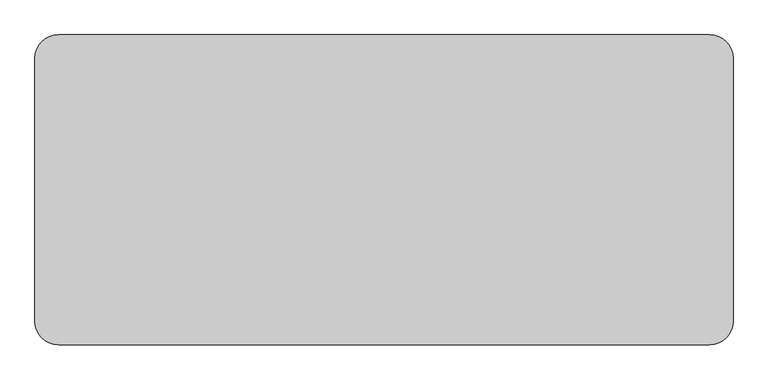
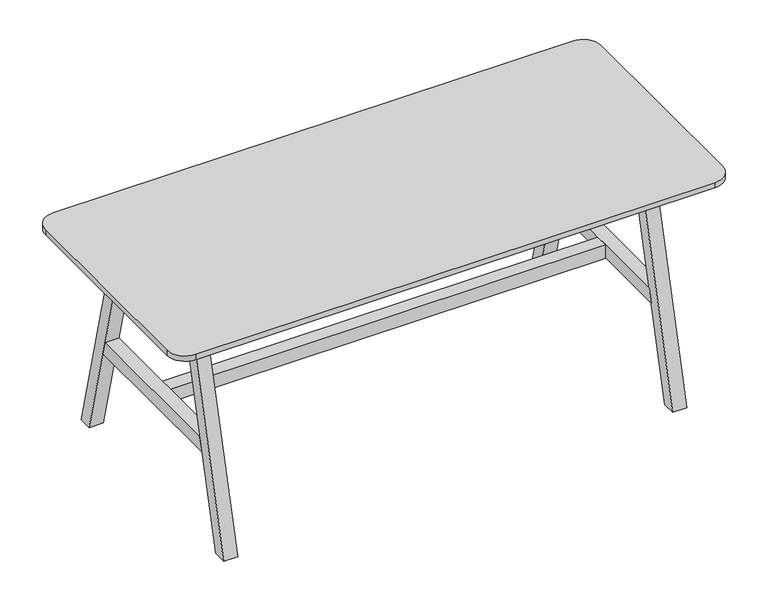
"""IFC4 building model written with IfcOpenShell, lengths in millimetres: furniture geometry, BDG_BossDesign_Tbls_AgentTables4Legs : AGE-DT-1800-800-3D."""

from ifc_helpers import new_model, si_unit, point, frame, frame_2d, origin, place, context, project, spatial, polyline, circle_curve, trimmed, segment, composite_curve, outline, extrude, source, transform, mapped, element, save


def furniture_91abc4a6(model_context):
    return source(origin(), model_context, "Body", "SweptSolid", [
        extrude(outline(polyline([(-266.3977249, 345.0), (266.3977249, 345.0), (277.9545427, 300.0), (-277.9545427, 300.0), (-266.3977249, 345.0)])), frame((705.0, 0.0, 0.0), z_axis=(1.0, 0.0, 0.0), x_axis=(0.0, 1.0, 0.0)), (0.0, 0.0, 1.0), 45.0),
        extrude(outline(polyline([(400.0, 0.0), (354.9999949, 0.0), (185.5, 660.0), (230.5000051, 660.0), (400.0, 0.0)])), frame((-750.0, 0.0, 0.0), z_axis=(1.0, 0.0, 0.0), x_axis=(0.0, 1.0, 0.0)), (0.0, 0.0, 1.0), 45.0),
        extrude(outline(polyline([(-400.0, 0.0), (-230.5000051, 660.0), (-185.5, 660.0), (-354.9999949, 0.0), (-400.0, 0.0)])), frame((-750.0, 0.0, 0.0), z_axis=(1.0, 0.0, 0.0), x_axis=(0.0, 1.0, 0.0)), (0.0, 0.0, 1.0), 45.0),
        extrude(outline(polyline([(-179.5, 722.0), (179.5, 722.0), (197.9691272, 650.0), (-197.9691272, 650.0), (-179.5, 722.0)])), frame((288.0, 0.0, 0.0), z_axis=(1.0, 0.0, 0.0), x_axis=(0.0, 1.0, 0.0)), (0.0, 0.0, 1.0), 24.0),
        extrude(outline(polyline([(-266.3977249, 345.0), (266.3977249, 345.0), (277.9545427, 300.0), (-277.9545427, 300.0), (-266.3977249, 345.0)])), frame((-750.0, 0.0, 0.0), z_axis=(1.0, 0.0, 0.0), x_axis=(0.0, 1.0, 0.0)), (0.0, 0.0, 1.0), 45.0),
        extrude(outline(polyline([(-179.5, 722.0), (179.5, 722.0), (197.9691272, 650.0), (-197.9691272, 650.0), (-179.5, 722.0)])), frame((-312.0, 0.0, 0.0), z_axis=(1.0, 0.0, 0.0), x_axis=(0.0, 1.0, 0.0)), (0.0, 0.0, 1.0), 24.0),
        extrude(outline(polyline([(-226.6006165, 634.973938), (-204.2770691, 722.0), (-179.5, 722.0), (-201.8235474, 634.973938), (-226.6006165, 634.973938)])), frame((-705.0, 0.0, 0.0), z_axis=(1.0, 0.0, 0.0), x_axis=(0.0, 1.0, 0.0)), (0.0, 0.0, 1.0), 1410.0),
        extrude(outline(polyline([(226.6006165, 634.973938), (201.8235474, 634.973938), (179.5, 722.0), (204.2770691, 722.0), (226.6006165, 634.973938)])), frame((-705.0, 0.0, 0.0), z_axis=(1.0, 0.0, 0.0), x_axis=(0.0, 1.0, 0.0)), (0.0, 0.0, 1.0), 1410.0),
        extrude(outline(polyline([(399.7999878, 0.0), (354.7999827, 0.0), (185.5, 660.0), (230.5000051, 660.0), (399.7999878, 0.0)])), frame((705.0, 0.0, 0.0), z_axis=(1.0, 0.0, 0.0), x_axis=(0.0, 1.0, 0.0)), (0.0, 0.0, 1.0), 45.0),
        extrude(outline(polyline([(-399.7999878, 0.0), (-230.5000051, 660.0), (-185.5, 660.0), (-354.7999827, 0.0), (-399.7999878, 0.0)])), frame((705.0, 0.0, 0.0), z_axis=(1.0, 0.0, 0.0), x_axis=(0.0, 1.0, 0.0)), (0.0, 0.0, 1.0), 45.0),
        extrude(outline(polyline([(705.0, 22.5000305), (705.0, -22.5000305), (-705.0, -22.5000305), (-705.0, 22.5000305), (705.0, 22.5000305)])), frame((0.0, 0.0, 300.0), z_axis=(0.0, 0.0, 1.0), x_axis=(1.0, 0.0, 0.0)), (0.0, 0.0, 1.0), 45.0),
        extrude(outline(composite_curve([segment(trimmed(circle_curve(frame_2d((840.0, 340.0)), 60.0), [point((840.0, 400.0))], [point((900.0, 340.0))], False, "CARTESIAN"), True, "CONTINUOUS"), segment(polyline([(900.0, 340.0), (900.0, -340.0)]), True, "CONTINUOUS"), segment(trimmed(circle_curve(frame_2d((840.0, -340.0)), 60.0), [point((900.0, -340.0))], [point((840.0, -400.0))], False, "CARTESIAN"), True, "CONTINUOUS"), segment(polyline([(840.0, -400.0), (-840.0, -400.0)]), True, "CONTINUOUS"), segment(trimmed(circle_curve(frame_2d((-840.0, -340.0)), 60.0), [point((-840.0, -400.0))], [point((-900.0, -340.0))], False, "CARTESIAN"), True, "CONTINUOUS"), segment(polyline([(-900.0, -340.0), (-900.0, 340.0)]), True, "CONTINUOUS"), segment(trimmed(circle_curve(frame_2d((-840.0, 340.0)), 60.0), [point((-900.0, 340.0))], [point((-840.0, 400.0))], False, "CARTESIAN"), True, "CONTINUOUS"), segment(polyline([(-840.0, 400.0), (840.0, 400.0)]), True, "CONTINUOUS")], self_intersect=False)), frame((0.0, 0.0, 722.0), z_axis=(0.0, 0.0, 1.0), x_axis=(1.0, 0.0, 0.0)), (0.0, 0.0, 1.0), 18.0),
    ])


if __name__ == "__main__":
    model = new_model("IFC4")
    model_context = context("Model", 3, world=origin())
    ifc_project = project(units=[si_unit("LENGTHUNIT", "METRE", prefix="MILLI")], contexts=[model_context])
    site = spatial("IfcSite", under=ifc_project)
    building = spatial("IfcBuilding", under=site)
    placement = place(None, origin())
    furniture_shape = furniture_91abc4a6(model_context)
    element("IfcFurniture", 1, ObjectType="BDG_BossDesign_Tbls_AgentTables4Legs : AGE-DT-1800-800-3D", at=placement, inside=building, context=model_context, shape_type="MappedRepresentation", body=[
        mapped(furniture_shape, transform((0.0, 0.0, 0.0), x_axis=(1.0, 0.0, 0.0), y_axis=(0.0, 1.0, 0.0), z_axis=(0.0, 0.0, 1.0))),
    ])
    save(model, "model.ifc")
